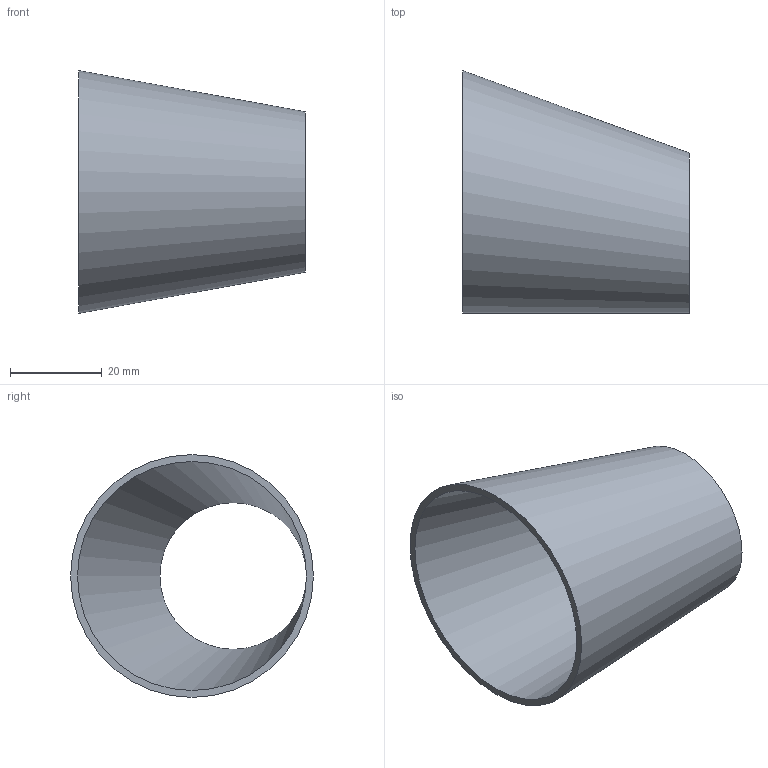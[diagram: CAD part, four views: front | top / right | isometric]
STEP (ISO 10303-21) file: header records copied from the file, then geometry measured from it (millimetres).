
FILE_DESCRIPTION(('FreeCAD Model'),'2;1');
FILE_NAME( '/home/martin/Documents/proyect/accesorios/stp/red-exc_DN50-32.step', '2017-12-31T13:03:37',('Author'),(''), 'Open CASCADE STEP processor 6.8','FreeCAD','Unknown');
FILE_SCHEMA(('AUTOMOTIVE_DESIGN_CC2 { 1 2 10303 214 -1 1 5 4 }'));
Length unit declared in the file: millimetre
Products named in the file (1): red-exc_DN50-32
Bounding box: 49.5 x 53 x 53 mm (x, y, z)
Volume: 9913.7 mm3; surface area: 13939 mm2
Topology: 1 solids, 1 shells, 4 faces, 6 edges, 4 vertices
Faces by surface type: bspline 2, plane 2
Entity records: 247 total; most frequent: CARTESIAN_POINT 87, DIRECTION 26, ORIENTED_EDGE 12, PCURVE 12, DEFINITIONAL_REPRESENTATION 12, CIRCLE 8, LINE 8, VECTOR 8
